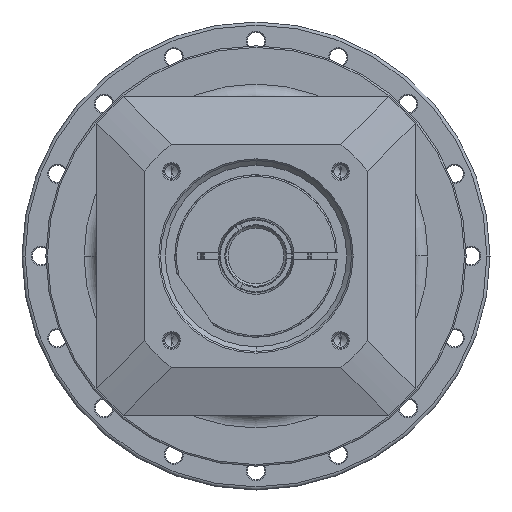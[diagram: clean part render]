
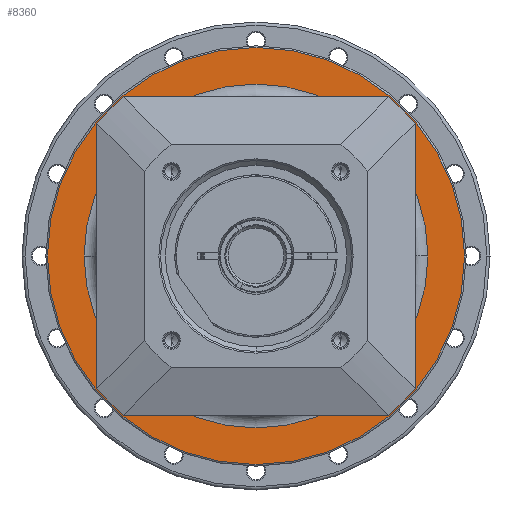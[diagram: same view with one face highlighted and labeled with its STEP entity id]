
A CAD part, left-side view. The second image highlights one B-rep face of the part: STEP entity #8360.
In plain terms, the highlighted planar face has unit normal (-1, 0, 0) as drawn and (1, 0, 0) by its records, which use the part's own axes.
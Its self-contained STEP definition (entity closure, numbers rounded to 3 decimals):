
#7839=CARTESIAN_POINT('',(-11.5,0.,0.));
#7840=DIRECTION('',(-1.,0.,0.));
#7841=DIRECTION('',(0.,-1.,0.));
#7842=AXIS2_PLACEMENT_3D('',#7839,#7840,#7841);
#7844=CARTESIAN_POINT('',(-11.5,0.,0.));
#7845=DIRECTION('',(-1.,0.,0.));
#7846=DIRECTION('',(0.,1.,0.));
#7847=AXIS2_PLACEMENT_3D('',#7844,#7845,#7846);
#7849=CARTESIAN_POINT('',(-11.5,0.,0.));
#7850=DIRECTION('',(-1.,0.,0.));
#7851=DIRECTION('',(0.,-1.,0.));
#7852=AXIS2_PLACEMENT_3D('',#7849,#7850,#7851);
#7854=CARTESIAN_POINT('',(-11.5,0.,0.));
#7855=DIRECTION('',(-1.,0.,0.));
#7856=DIRECTION('',(0.,1.,0.));
#7857=AXIS2_PLACEMENT_3D('',#7854,#7855,#7856);
#7923=CARTESIAN_POINT('',(-11.5,-65.5,0.));
#7924=CARTESIAN_POINT('',(-11.5,65.5,0.));
#7925=VERTEX_POINT('',#7923);
#7926=VERTEX_POINT('',#7924);
#7947=CARTESIAN_POINT('',(-11.5,-54.,0.));
#7948=CARTESIAN_POINT('',(-11.5,54.,0.));
#7949=VERTEX_POINT('',#7947);
#7950=VERTEX_POINT('',#7948);
#8345=CARTESIAN_POINT('',(-11.5,0.,0.));
#8346=DIRECTION('',(1.,0.,0.));
#8347=DIRECTION('',(0.,-1.,0.));
#8348=AXIS2_PLACEMENT_3D('',#8345,#8346,#8347);
#8349=PLANE('',#8348);
#8350=ORIENTED_EDGE('',*,*,#8286,.T.);
#8351=ORIENTED_EDGE('',*,*,#8301,.T.);
#8352=EDGE_LOOP('',(#8350,#8351));
#8353=FACE_OUTER_BOUND('',#8352,.F.);
#8355=ORIENTED_EDGE('',*,*,#8354,.F.);
#8357=ORIENTED_EDGE('',*,*,#8356,.F.);
#8358=EDGE_LOOP('',(#8355,#8357));
#8359=FACE_BOUND('',#8358,.F.);
#8360=ADVANCED_FACE('',(#8353,#8359),#8349,.T.);
#7843=CIRCLE('',#7842,54.);
#7848=CIRCLE('',#7847,54.);
#7853=CIRCLE('',#7852,65.5);
#7858=CIRCLE('',#7857,65.5);
#8286=EDGE_CURVE('',#7925,#7926,#7853,.T.);
#8301=EDGE_CURVE('',#7926,#7925,#7858,.T.);
#8354=EDGE_CURVE('',#7949,#7950,#7843,.T.);
#8356=EDGE_CURVE('',#7950,#7949,#7848,.T.);
